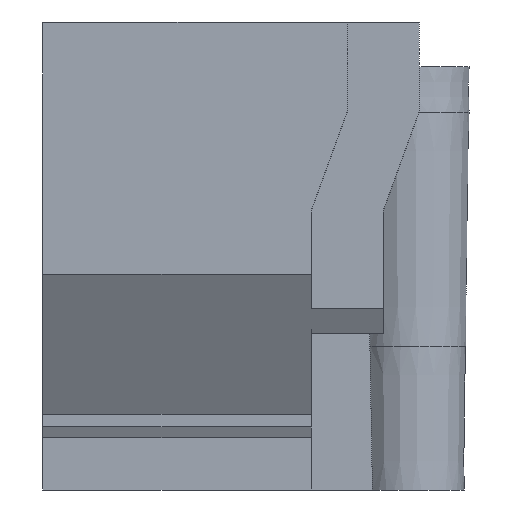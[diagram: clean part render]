
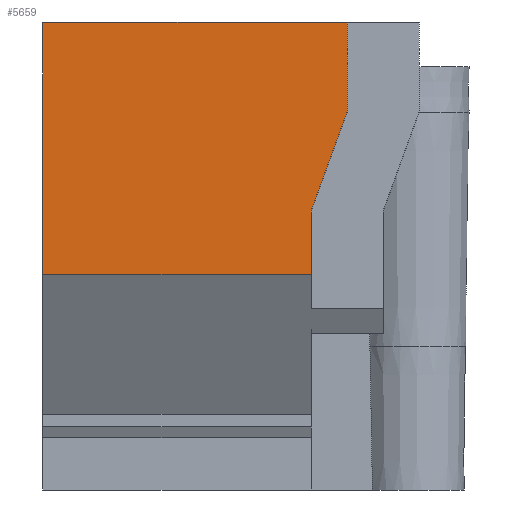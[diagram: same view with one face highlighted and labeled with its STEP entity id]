
A CAD part, front view. The second image highlights one B-rep face of the part: STEP entity #5659.
In plain terms, the highlighted planar face has unit normal (0, -1, 0).
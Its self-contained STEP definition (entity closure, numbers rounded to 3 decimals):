
#32 = PLANE('',#33);
#33 = AXIS2_PLACEMENT_3D('',#34,#35,#36);
#34 = CARTESIAN_POINT('',(-15.,-190.,-0.1));
#35 = DIRECTION('',(1.,0.,-0.));
#36 = DIRECTION('',(0.,0.,1.));
#107 = VERTEX_POINT('',#108);
#108 = CARTESIAN_POINT('',(-15.,-180.5,26.));
#121 = PLANE('',#122);
#122 = AXIS2_PLACEMENT_3D('',#123,#124,#125);
#123 = CARTESIAN_POINT('',(0.,-3.198,26.));
#124 = DIRECTION('',(0.,0.,1.));
#125 = DIRECTION('',(1.,0.,-0.));
#132 = EDGE_CURVE('',#133,#107,#135,.T.);
#133 = VERTEX_POINT('',#134);
#134 = CARTESIAN_POINT('',(-15.,-180.5,12.));
#135 = SURFACE_CURVE('',#136,(#140,#146),.PCURVE_S1.);
#136 = LINE('',#137,#138);
#137 = CARTESIAN_POINT('',(-15.,-180.5,5.95));
#138 = VECTOR('',#139,1.);
#139 = DIRECTION('',(0.,-0.,1.));
#140 = PCURVE('',#32,#141);
#141 = DEFINITIONAL_REPRESENTATION('',(#142),#145);
#142 = B_SPLINE_CURVE_WITH_KNOTS('',1,(#143,#144),.UNSPECIFIED.,.F.,.F.,
  (2,2),(6.05,20.05),.PIECEWISE_BEZIER_KNOTS.);
#143 = CARTESIAN_POINT('',(12.1,-9.5));
#144 = CARTESIAN_POINT('',(26.1,-9.5));
#145 = ( GEOMETRIC_REPRESENTATION_CONTEXT(2) 
PARAMETRIC_REPRESENTATION_CONTEXT() REPRESENTATION_CONTEXT('2D SPACE',''
  ) );
#146 = PCURVE('',#147,#152);
#147 = PLANE('',#148);
#148 = AXIS2_PLACEMENT_3D('',#149,#150,#151);
#149 = CARTESIAN_POINT('',(-196.5,-180.5,12.));
#150 = DIRECTION('',(0.,1.,0.));
#151 = DIRECTION('',(1.,0.,0.));
#152 = DEFINITIONAL_REPRESENTATION('',(#153),#156);
#153 = B_SPLINE_CURVE_WITH_KNOTS('',1,(#154,#155),.UNSPECIFIED.,.F.,.F.,
  (2,2),(6.05,20.05),.PIECEWISE_BEZIER_KNOTS.);
#154 = CARTESIAN_POINT('',(181.5,0.));
#155 = CARTESIAN_POINT('',(181.5,-14.));
#156 = ( GEOMETRIC_REPRESENTATION_CONTEXT(2) 
PARAMETRIC_REPRESENTATION_CONTEXT() REPRESENTATION_CONTEXT('2D SPACE',''
  ) );
#184 = B_SPLINE_SURFACE_WITH_KNOTS('',1,1,(
    (#185,#186)
    ,(#187,#188
    )),.UNSPECIFIED.,.F.,.F.,.F.,(2,2),(2,2),(0.,393.),(0.,1.),
  .PIECEWISE_BEZIER_KNOTS.);
#185 = CARTESIAN_POINT('',(-192.,-176.,4.2));
#186 = CARTESIAN_POINT('',(-196.5,-180.5,12.));
#187 = CARTESIAN_POINT('',(192.,-176.,4.2));
#188 = CARTESIAN_POINT('',(196.5,-180.5,12.));
#5603 = VERTEX_POINT('',#5604);
#5604 = CARTESIAN_POINT('',(-0.1,-180.5,12.));
#5624 = PLANE('',#5625);
#5625 = AXIS2_PLACEMENT_3D('',#5626,#5627,#5628);
#5626 = CARTESIAN_POINT('',(-0.1,-229.9,8.));
#5627 = DIRECTION('',(1.,0.,0.));
#5628 = DIRECTION('',(-0.,1.,0.));
#5639 = EDGE_CURVE('',#133,#5603,#5640,.T.);
#5640 = SURFACE_CURVE('',#5641,(#5645,#5652),.PCURVE_S1.);
#5641 = LINE('',#5642,#5643);
#5642 = CARTESIAN_POINT('',(-196.5,-180.5,12.));
#5643 = VECTOR('',#5644,1.);
#5644 = DIRECTION('',(1.,0.,0.));
#5645 = PCURVE('',#184,#5646);
#5646 = DEFINITIONAL_REPRESENTATION('',(#5647),#5651);
#5647 = LINE('',#5648,#5649);
#5648 = CARTESIAN_POINT('',(0.,1.));
#5649 = VECTOR('',#5650,1.);
#5650 = DIRECTION('',(1.,0.));
#5651 = ( GEOMETRIC_REPRESENTATION_CONTEXT(2) 
PARAMETRIC_REPRESENTATION_CONTEXT() REPRESENTATION_CONTEXT('2D SPACE',''
  ) );
#5652 = PCURVE('',#147,#5653);
#5653 = DEFINITIONAL_REPRESENTATION('',(#5654),#5658);
#5654 = LINE('',#5655,#5656);
#5655 = CARTESIAN_POINT('',(0.,0.));
#5656 = VECTOR('',#5657,1.);
#5657 = DIRECTION('',(1.,0.));
#5658 = ( GEOMETRIC_REPRESENTATION_CONTEXT(2) 
PARAMETRIC_REPRESENTATION_CONTEXT() REPRESENTATION_CONTEXT('2D SPACE',''
  ) );
#5659 = ADVANCED_FACE('',(#5660),#147,.F.);
#5660 = FACE_BOUND('',#5661,.F.);
#5661 = EDGE_LOOP('',(#5662,#5663,#5686,#5712,#5738,#5757));
#5662 = ORIENTED_EDGE('',*,*,#132,.T.);
#5663 = ORIENTED_EDGE('',*,*,#5664,.T.);
#5664 = EDGE_CURVE('',#107,#5665,#5667,.T.);
#5665 = VERTEX_POINT('',#5666);
#5666 = CARTESIAN_POINT('',(1.9,-180.5,26.));
#5667 = SURFACE_CURVE('',#5668,(#5672,#5679),.PCURVE_S1.);
#5668 = LINE('',#5669,#5670);
#5669 = CARTESIAN_POINT('',(-196.5,-180.5,26.));
#5670 = VECTOR('',#5671,1.);
#5671 = DIRECTION('',(1.,0.,0.));
#5672 = PCURVE('',#147,#5673);
#5673 = DEFINITIONAL_REPRESENTATION('',(#5674),#5678);
#5674 = LINE('',#5675,#5676);
#5675 = CARTESIAN_POINT('',(0.,-14.));
#5676 = VECTOR('',#5677,1.);
#5677 = DIRECTION('',(1.,0.));
#5678 = ( GEOMETRIC_REPRESENTATION_CONTEXT(2) 
PARAMETRIC_REPRESENTATION_CONTEXT() REPRESENTATION_CONTEXT('2D SPACE',''
  ) );
#5679 = PCURVE('',#121,#5680);
#5680 = DEFINITIONAL_REPRESENTATION('',(#5681),#5685);
#5681 = LINE('',#5682,#5683);
#5682 = CARTESIAN_POINT('',(-196.5,-177.302));
#5683 = VECTOR('',#5684,1.);
#5684 = DIRECTION('',(1.,0.));
#5685 = ( GEOMETRIC_REPRESENTATION_CONTEXT(2) 
PARAMETRIC_REPRESENTATION_CONTEXT() REPRESENTATION_CONTEXT('2D SPACE',''
  ) );
#5686 = ORIENTED_EDGE('',*,*,#5687,.T.);
#5687 = EDGE_CURVE('',#5665,#5688,#5690,.T.);
#5688 = VERTEX_POINT('',#5689);
#5689 = CARTESIAN_POINT('',(1.9,-180.5,21.));
#5690 = SURFACE_CURVE('',#5691,(#5695,#5701),.PCURVE_S1.);
#5691 = LINE('',#5692,#5693);
#5692 = CARTESIAN_POINT('',(1.9,-180.5,25.));
#5693 = VECTOR('',#5694,1.);
#5694 = DIRECTION('',(0.,0.,-1.));
#5695 = PCURVE('',#147,#5696);
#5696 = DEFINITIONAL_REPRESENTATION('',(#5697),#5700);
#5697 = B_SPLINE_CURVE_WITH_KNOTS('',1,(#5698,#5699),.UNSPECIFIED.,.F.,
  .F.,(2,2),(-1.,4.),.PIECEWISE_BEZIER_KNOTS.);
#5698 = CARTESIAN_POINT('',(198.4,-14.));
#5699 = CARTESIAN_POINT('',(198.4,-9.));
#5700 = ( GEOMETRIC_REPRESENTATION_CONTEXT(2) 
PARAMETRIC_REPRESENTATION_CONTEXT() REPRESENTATION_CONTEXT('2D SPACE',''
  ) );
#5701 = PCURVE('',#5702,#5707);
#5702 = PLANE('',#5703);
#5703 = AXIS2_PLACEMENT_3D('',#5704,#5705,#5706);
#5704 = CARTESIAN_POINT('',(1.9,-229.9,38.));
#5705 = DIRECTION('',(1.,0.,0.));
#5706 = DIRECTION('',(-0.,1.,0.));
#5707 = DEFINITIONAL_REPRESENTATION('',(#5708),#5711);
#5708 = B_SPLINE_CURVE_WITH_KNOTS('',1,(#5709,#5710),.UNSPECIFIED.,.F.,
  .F.,(2,2),(-1.,4.),.PIECEWISE_BEZIER_KNOTS.);
#5709 = CARTESIAN_POINT('',(49.4,-12.));
#5710 = CARTESIAN_POINT('',(49.4,-17.));
#5711 = ( GEOMETRIC_REPRESENTATION_CONTEXT(2) 
PARAMETRIC_REPRESENTATION_CONTEXT() REPRESENTATION_CONTEXT('2D SPACE',''
  ) );
#5712 = ORIENTED_EDGE('',*,*,#5713,.T.);
#5713 = EDGE_CURVE('',#5688,#5714,#5716,.T.);
#5714 = VERTEX_POINT('',#5715);
#5715 = CARTESIAN_POINT('',(-0.1,-180.5,15.5));
#5716 = SURFACE_CURVE('',#5717,(#5721,#5727),.PCURVE_S1.);
#5717 = LINE('',#5718,#5719);
#5718 = CARTESIAN_POINT('',(-11.131,-180.5,-14.834));
#5719 = VECTOR('',#5720,1.);
#5720 = DIRECTION('',(-0.342,0.,-0.94));
#5721 = PCURVE('',#147,#5722);
#5722 = DEFINITIONAL_REPRESENTATION('',(#5723),#5726);
#5723 = B_SPLINE_CURVE_WITH_KNOTS('',1,(#5724,#5725),.UNSPECIFIED.,.F.,
  .F.,(2,2),(-38.13,-32.278),.PIECEWISE_BEZIER_KNOTS.);
#5724 = CARTESIAN_POINT('',(198.4,-9.));
#5725 = CARTESIAN_POINT('',(196.4,-3.5));
#5726 = ( GEOMETRIC_REPRESENTATION_CONTEXT(2) 
PARAMETRIC_REPRESENTATION_CONTEXT() REPRESENTATION_CONTEXT('2D SPACE',''
  ) );
#5727 = PCURVE('',#5728,#5733);
#5728 = PLANE('',#5729);
#5729 = AXIS2_PLACEMENT_3D('',#5730,#5731,#5732);
#5730 = CARTESIAN_POINT('',(1.9,-229.9,21.));
#5731 = DIRECTION('',(0.94,0.,-0.342));
#5732 = DIRECTION('',(0.,1.,0.));
#5733 = DEFINITIONAL_REPRESENTATION('',(#5734),#5737);
#5734 = B_SPLINE_CURVE_WITH_KNOTS('',1,(#5735,#5736),.UNSPECIFIED.,.F.,
  .F.,(2,2),(-38.13,-32.278),.PIECEWISE_BEZIER_KNOTS.);
#5735 = CARTESIAN_POINT('',(49.4,0.));
#5736 = CARTESIAN_POINT('',(49.4,-5.852));
#5737 = ( GEOMETRIC_REPRESENTATION_CONTEXT(2) 
PARAMETRIC_REPRESENTATION_CONTEXT() REPRESENTATION_CONTEXT('2D SPACE',''
  ) );
#5738 = ORIENTED_EDGE('',*,*,#5739,.T.);
#5739 = EDGE_CURVE('',#5714,#5603,#5740,.T.);
#5740 = SURFACE_CURVE('',#5741,(#5745,#5751),.PCURVE_S1.);
#5741 = LINE('',#5742,#5743);
#5742 = CARTESIAN_POINT('',(-0.1,-180.5,10.));
#5743 = VECTOR('',#5744,1.);
#5744 = DIRECTION('',(0.,0.,-1.));
#5745 = PCURVE('',#147,#5746);
#5746 = DEFINITIONAL_REPRESENTATION('',(#5747),#5750);
#5747 = B_SPLINE_CURVE_WITH_KNOTS('',1,(#5748,#5749),.UNSPECIFIED.,.F.,
  .F.,(2,2),(-5.5,-2.),.PIECEWISE_BEZIER_KNOTS.);
#5748 = CARTESIAN_POINT('',(196.4,-3.5));
#5749 = CARTESIAN_POINT('',(196.4,0.));
#5750 = ( GEOMETRIC_REPRESENTATION_CONTEXT(2) 
PARAMETRIC_REPRESENTATION_CONTEXT() REPRESENTATION_CONTEXT('2D SPACE',''
  ) );
#5751 = PCURVE('',#5624,#5752);
#5752 = DEFINITIONAL_REPRESENTATION('',(#5753),#5756);
#5753 = B_SPLINE_CURVE_WITH_KNOTS('',1,(#5754,#5755),.UNSPECIFIED.,.F.,
  .F.,(2,2),(-5.5,-2.),.PIECEWISE_BEZIER_KNOTS.);
#5754 = CARTESIAN_POINT('',(49.4,7.5));
#5755 = CARTESIAN_POINT('',(49.4,4.));
#5756 = ( GEOMETRIC_REPRESENTATION_CONTEXT(2) 
PARAMETRIC_REPRESENTATION_CONTEXT() REPRESENTATION_CONTEXT('2D SPACE',''
  ) );
#5757 = ORIENTED_EDGE('',*,*,#5639,.F.);
